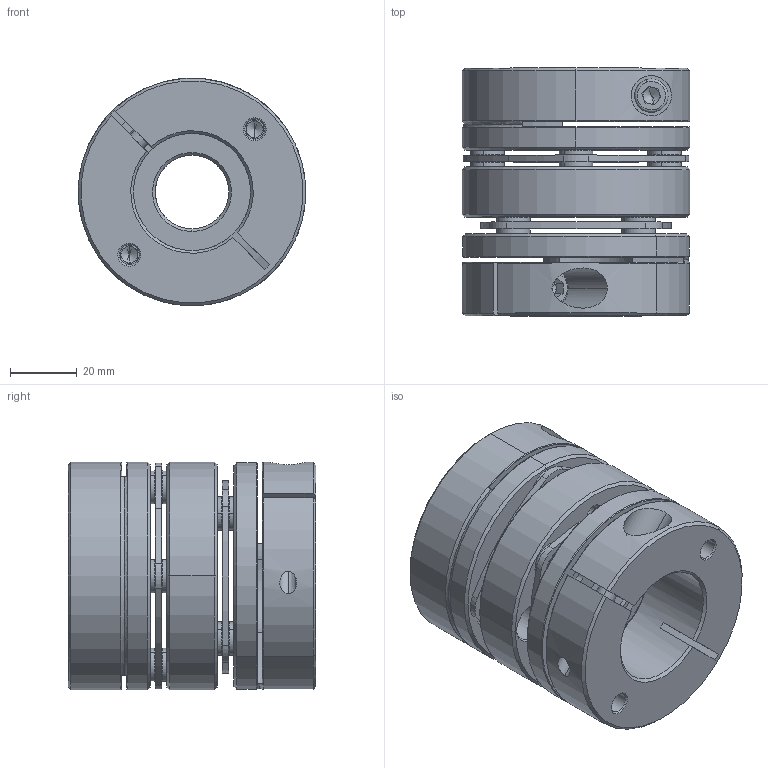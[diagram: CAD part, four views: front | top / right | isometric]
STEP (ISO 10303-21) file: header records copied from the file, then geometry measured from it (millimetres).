
FILE_DESCRIPTION (( 'STEP AP203' ), '1' );
FILE_NAME ('LD2-D68-22-35.STEP', '2021-10-26T08:39:54', ( '' ), ( '' ), 'SwSTEP 2.0', 'SolidWorks 2018', '' );
FILE_SCHEMA (( 'CONFIG_CONTROL_DESIGN' ));
Length unit declared in the file: millimetre
Products named in the file (2): 錨璃102^LD2-D68; LD2-D68-22-35
Assembly tree (1 placements, depth 2):
  LD2-D68-22-35
    錨璃102^LD2-D68
Bounding box: 68 x 74 x 68 mm (x, y, z)
Volume: 173439.3 mm3; surface area: 63043.2 mm2
Topology: 1 solids, 27 shells, 732 faces, 1696 edges, 1032 vertices
Faces by surface type: cylinder 256, cone 226, plane 220, torus 30
Entity records: 21398 total; most frequent: DIRECTION 3974, CARTESIAN_POINT 3912, ORIENTED_EDGE 3344, EDGE_CURVE 1672, AXIS2_PLACEMENT_3D 1614, VERTEX_POINT 1032, CIRCLE 878, EDGE_LOOP 868
